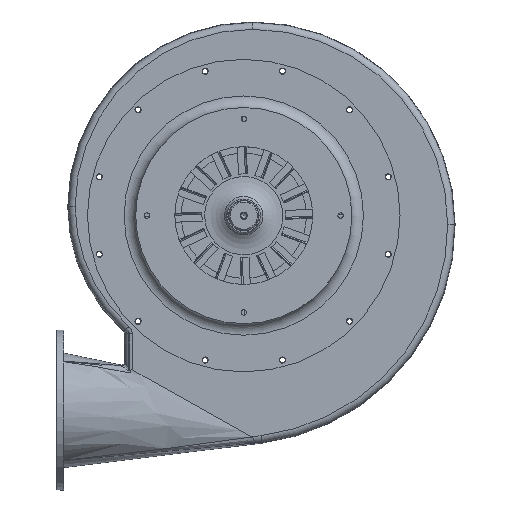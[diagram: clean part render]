
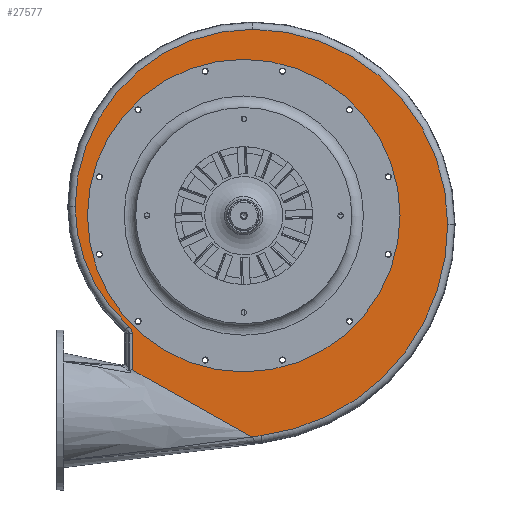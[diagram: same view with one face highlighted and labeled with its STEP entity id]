
A CAD part, top view. The second image highlights one B-rep face of the part: STEP entity #27577.
In plain terms, the highlighted planar face has unit normal (0, 0, 1).
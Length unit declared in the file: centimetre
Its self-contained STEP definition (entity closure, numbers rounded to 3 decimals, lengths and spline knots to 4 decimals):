
#221=FACE_BOUND('',#8738,.T.);
#222=FACE_BOUND('',#8739,.T.);
#223=FACE_BOUND('',#8740,.T.);
#224=FACE_BOUND('',#8741,.T.);
#225=FACE_BOUND('',#8742,.T.);
#226=FACE_BOUND('',#8743,.T.);
#227=FACE_BOUND('',#8744,.T.);
#228=FACE_BOUND('',#8745,.T.);
#229=FACE_BOUND('',#8746,.T.);
#230=FACE_BOUND('',#8747,.T.);
#231=FACE_BOUND('',#8748,.T.);
#232=FACE_BOUND('',#8749,.T.);
#233=FACE_BOUND('',#8750,.T.);
#1461=LINE('',#40298,#3857);
#1464=LINE('',#40424,#3860);
#1465=LINE('',#40426,#3861);
#1466=LINE('',#40427,#3862);
#1467=LINE('',#40453,#3863);
#3857=VECTOR('',#31713,5.3127);
#3860=VECTOR('',#31718,1.862);
#3861=VECTOR('',#31719,16.555);
#3862=VECTOR('',#31720,1.6597);
#3863=VECTOR('',#31755,1.4801);
#6239=PLANE('',#29156);
#7204=FACE_OUTER_BOUND('',#8737,.T.);
#8737=EDGE_LOOP('',(#18919,#18920,#18921,#18922,#18923,#18924,#18925,#18926,
#18927,#18928));
#8738=EDGE_LOOP('',(#18929));
#8739=EDGE_LOOP('',(#18930));
#8740=EDGE_LOOP('',(#18931));
#8741=EDGE_LOOP('',(#18932));
#8742=EDGE_LOOP('',(#18933));
#8743=EDGE_LOOP('',(#18934));
#8744=EDGE_LOOP('',(#18935));
#8745=EDGE_LOOP('',(#18936));
#8746=EDGE_LOOP('',(#18937));
#8747=EDGE_LOOP('',(#18938));
#8748=EDGE_LOOP('',(#18939));
#8749=EDGE_LOOP('',(#18940));
#8750=EDGE_LOOP('',(#18941));
#11389=CIRCLE('',#29056,0.4);
#11391=CIRCLE('',#29059,0.4);
#11393=CIRCLE('',#29062,0.4);
#11395=CIRCLE('',#29065,0.4);
#11397=CIRCLE('',#29068,0.4);
#11399=CIRCLE('',#29071,0.4);
#11401=CIRCLE('',#29074,0.4);
#11403=CIRCLE('',#29077,0.4);
#11405=CIRCLE('',#29080,0.4);
#11407=CIRCLE('',#29083,0.4);
#11409=CIRCLE('',#29086,0.4);
#11411=CIRCLE('',#29089,0.4);
#11413=CIRCLE('',#29092,21.);
#11441=CIRCLE('',#29142,23.5073);
#11444=CIRCLE('',#29146,26.1073);
#11447=CIRCLE('',#29150,28.7073);
#11450=CIRCLE('',#29154,31.3073);
#12431=B_SPLINE_CURVE_WITH_KNOTS('',3,(#40065,#40066,#40067,#40068,#40069),
 .UNSPECIFIED.,.F.,.F.,(4,1,4),(0.,0.5428,1.2665),
 .UNSPECIFIED.);
#12583=VERTEX_POINT('',#39454);
#12585=VERTEX_POINT('',#39459);
#12587=VERTEX_POINT('',#39464);
#12589=VERTEX_POINT('',#39469);
#12591=VERTEX_POINT('',#39474);
#12593=VERTEX_POINT('',#39479);
#12595=VERTEX_POINT('',#39484);
#12597=VERTEX_POINT('',#39489);
#12599=VERTEX_POINT('',#39494);
#12601=VERTEX_POINT('',#39499);
#12603=VERTEX_POINT('',#39504);
#12605=VERTEX_POINT('',#39509);
#12607=VERTEX_POINT('',#39514);
#12646=VERTEX_POINT('',#40062);
#12647=VERTEX_POINT('',#40064);
#12658=VERTEX_POINT('',#40269);
#12660=VERTEX_POINT('',#40415);
#12661=VERTEX_POINT('',#40423);
#12662=VERTEX_POINT('',#40425);
#12664=VERTEX_POINT('',#40430);
#12666=VERTEX_POINT('',#40436);
#12668=VERTEX_POINT('',#40442);
#12670=VERTEX_POINT('',#40448);
#15107=EDGE_CURVE('',#12583,#12583,#11389,.T.);
#15109=EDGE_CURVE('',#12585,#12585,#11391,.T.);
#15111=EDGE_CURVE('',#12587,#12587,#11393,.T.);
#15113=EDGE_CURVE('',#12589,#12589,#11395,.T.);
#15115=EDGE_CURVE('',#12591,#12591,#11397,.T.);
#15117=EDGE_CURVE('',#12593,#12593,#11399,.T.);
#15119=EDGE_CURVE('',#12595,#12595,#11401,.T.);
#15121=EDGE_CURVE('',#12597,#12597,#11403,.T.);
#15123=EDGE_CURVE('',#12599,#12599,#11405,.T.);
#15125=EDGE_CURVE('',#12601,#12601,#11407,.T.);
#15127=EDGE_CURVE('',#12603,#12603,#11409,.T.);
#15129=EDGE_CURVE('',#12605,#12605,#11411,.T.);
#15131=EDGE_CURVE('',#12607,#12607,#11413,.T.);
#15193=EDGE_CURVE('',#12647,#12646,#12431,.T.);
#15210=EDGE_CURVE('',#12658,#12646,#1461,.T.);
#15217=EDGE_CURVE('',#12660,#12661,#1464,.T.);
#15218=EDGE_CURVE('',#12661,#12662,#1465,.T.);
#15219=EDGE_CURVE('',#12662,#12658,#1466,.T.);
#15222=EDGE_CURVE('',#12664,#12647,#11441,.T.);
#15225=EDGE_CURVE('',#12666,#12664,#11444,.T.);
#15228=EDGE_CURVE('',#12668,#12666,#11447,.T.);
#15231=EDGE_CURVE('',#12670,#12668,#11450,.T.);
#15232=EDGE_CURVE('',#12660,#12670,#1467,.T.);
#18919=ORIENTED_EDGE('',*,*,#15210,.F.);
#18920=ORIENTED_EDGE('',*,*,#15219,.F.);
#18921=ORIENTED_EDGE('',*,*,#15218,.F.);
#18922=ORIENTED_EDGE('',*,*,#15217,.F.);
#18923=ORIENTED_EDGE('',*,*,#15232,.T.);
#18924=ORIENTED_EDGE('',*,*,#15231,.T.);
#18925=ORIENTED_EDGE('',*,*,#15228,.T.);
#18926=ORIENTED_EDGE('',*,*,#15225,.T.);
#18927=ORIENTED_EDGE('',*,*,#15222,.T.);
#18928=ORIENTED_EDGE('',*,*,#15193,.T.);
#18929=ORIENTED_EDGE('',*,*,#15107,.F.);
#18930=ORIENTED_EDGE('',*,*,#15109,.F.);
#18931=ORIENTED_EDGE('',*,*,#15111,.F.);
#18932=ORIENTED_EDGE('',*,*,#15113,.F.);
#18933=ORIENTED_EDGE('',*,*,#15115,.F.);
#18934=ORIENTED_EDGE('',*,*,#15117,.F.);
#18935=ORIENTED_EDGE('',*,*,#15119,.F.);
#18936=ORIENTED_EDGE('',*,*,#15121,.F.);
#18937=ORIENTED_EDGE('',*,*,#15123,.F.);
#18938=ORIENTED_EDGE('',*,*,#15125,.F.);
#18939=ORIENTED_EDGE('',*,*,#15127,.F.);
#18940=ORIENTED_EDGE('',*,*,#15129,.F.);
#18941=ORIENTED_EDGE('',*,*,#15131,.F.);
#27577=ADVANCED_FACE('',(#7204,#221,#222,#223,#224,#225,#226,#227,#228,
#229,#230,#231,#232,#233),#6239,.T.);
#29056=AXIS2_PLACEMENT_3D('',#39455,#31533,#31534);
#29059=AXIS2_PLACEMENT_3D('',#39460,#31539,#31540);
#29062=AXIS2_PLACEMENT_3D('',#39465,#31545,#31546);
#29065=AXIS2_PLACEMENT_3D('',#39470,#31551,#31552);
#29068=AXIS2_PLACEMENT_3D('',#39475,#31557,#31558);
#29071=AXIS2_PLACEMENT_3D('',#39480,#31563,#31564);
#29074=AXIS2_PLACEMENT_3D('',#39485,#31569,#31570);
#29077=AXIS2_PLACEMENT_3D('',#39490,#31575,#31576);
#29080=AXIS2_PLACEMENT_3D('',#39495,#31581,#31582);
#29083=AXIS2_PLACEMENT_3D('',#39500,#31587,#31588);
#29086=AXIS2_PLACEMENT_3D('',#39505,#31593,#31594);
#29089=AXIS2_PLACEMENT_3D('',#39510,#31599,#31600);
#29092=AXIS2_PLACEMENT_3D('',#39515,#31605,#31606);
#29142=AXIS2_PLACEMENT_3D('',#40433,#31727,#31728);
#29146=AXIS2_PLACEMENT_3D('',#40439,#31735,#31736);
#29150=AXIS2_PLACEMENT_3D('',#40445,#31743,#31744);
#29154=AXIS2_PLACEMENT_3D('',#40451,#31751,#31752);
#29156=AXIS2_PLACEMENT_3D('',#40455,#31757,#31758);
#31533=DIRECTION('center_axis',(0.,0.,1.));
#31534=DIRECTION('ref_axis',(1.,0.,0.));
#31539=DIRECTION('center_axis',(0.,0.,1.));
#31540=DIRECTION('ref_axis',(1.,0.,0.));
#31545=DIRECTION('center_axis',(0.,0.,1.));
#31546=DIRECTION('ref_axis',(1.,0.,0.));
#31551=DIRECTION('center_axis',(0.,0.,1.));
#31552=DIRECTION('ref_axis',(1.,0.,0.));
#31557=DIRECTION('center_axis',(0.,0.,1.));
#31558=DIRECTION('ref_axis',(1.,0.,0.));
#31563=DIRECTION('center_axis',(0.,0.,1.));
#31564=DIRECTION('ref_axis',(1.,0.,0.));
#31569=DIRECTION('center_axis',(0.,0.,1.));
#31570=DIRECTION('ref_axis',(1.,0.,0.));
#31575=DIRECTION('center_axis',(0.,0.,1.));
#31576=DIRECTION('ref_axis',(1.,0.,0.));
#31581=DIRECTION('center_axis',(0.,0.,1.));
#31582=DIRECTION('ref_axis',(1.,0.,0.));
#31587=DIRECTION('center_axis',(0.,0.,1.));
#31588=DIRECTION('ref_axis',(1.,0.,0.));
#31593=DIRECTION('center_axis',(0.,0.,1.));
#31594=DIRECTION('ref_axis',(1.,0.,0.));
#31599=DIRECTION('center_axis',(0.,0.,1.));
#31600=DIRECTION('ref_axis',(1.,0.,0.));
#31605=DIRECTION('center_axis',(0.,0.,1.));
#31606=DIRECTION('ref_axis',(1.,0.,0.));
#31713=DIRECTION('',(0.,1.,0.));
#31718=DIRECTION('',(-0.872,0.49,0.));
#31719=DIRECTION('',(-0.872,0.49,0.));
#31720=DIRECTION('',(-0.872,0.49,0.));
#31727=DIRECTION('center_axis',(0.,0.,1.));
#31728=DIRECTION('ref_axis',(-0.912,-0.41,0.));
#31735=DIRECTION('center_axis',(0.,0.,1.));
#31736=DIRECTION('ref_axis',(-0.707,0.707,0.));
#31743=DIRECTION('center_axis',(0.,0.,1.));
#31744=DIRECTION('ref_axis',(0.707,0.707,0.));
#31751=DIRECTION('center_axis',(0.,0.,1.));
#31752=DIRECTION('ref_axis',(0.749,-0.662,0.));
#31755=DIRECTION('',(0.992,0.123,0.));
#31757=DIRECTION('center_axis',(0.,0.,1.));
#31758=DIRECTION('ref_axis',(1.,0.,0.));
#39454=CARTESIAN_POINT('',(5.294,21.2504,6.3));
#39455=CARTESIAN_POINT('Origin',(5.694,21.2504,6.3));
#39459=CARTESIAN_POINT('',(20.8504,5.694,6.3));
#39460=CARTESIAN_POINT('Origin',(21.2504,5.694,6.3));
#39464=CARTESIAN_POINT('',(15.1563,-15.5563,6.3));
#39465=CARTESIAN_POINT('Origin',(15.5563,-15.5563,6.3));
#39469=CARTESIAN_POINT('',(-6.094,-21.2504,6.3));
#39470=CARTESIAN_POINT('Origin',(-5.694,-21.2504,6.3));
#39474=CARTESIAN_POINT('',(-21.6504,-5.694,6.3));
#39475=CARTESIAN_POINT('Origin',(-21.2504,-5.694,6.3));
#39479=CARTESIAN_POINT('',(-15.9563,15.5563,6.3));
#39480=CARTESIAN_POINT('Origin',(-15.5563,15.5563,6.3));
#39484=CARTESIAN_POINT('',(-6.094,21.2504,6.3));
#39485=CARTESIAN_POINT('Origin',(-5.694,21.2504,6.3));
#39489=CARTESIAN_POINT('',(-21.6504,5.694,6.3));
#39490=CARTESIAN_POINT('Origin',(-21.2504,5.694,6.3));
#39494=CARTESIAN_POINT('',(-15.9563,-15.5563,6.3));
#39495=CARTESIAN_POINT('Origin',(-15.5563,-15.5563,6.3));
#39499=CARTESIAN_POINT('',(5.294,-21.2504,6.3));
#39500=CARTESIAN_POINT('Origin',(5.694,-21.2504,6.3));
#39504=CARTESIAN_POINT('',(20.8504,-5.694,6.3));
#39505=CARTESIAN_POINT('Origin',(21.2504,-5.694,6.3));
#39509=CARTESIAN_POINT('',(15.1563,15.5563,6.3));
#39510=CARTESIAN_POINT('Origin',(15.5563,15.5563,6.3));
#39514=CARTESIAN_POINT('',(-21.,0.,6.3));
#39515=CARTESIAN_POINT('Origin',(0.,0.,6.3));
#40062=CARTESIAN_POINT('',(-16.4073,-17.3965,6.3));
#40064=CARTESIAN_POINT('',(-16.9111,-16.2752,6.3));
#40065=CARTESIAN_POINT('Ctrl Pts',(-16.9111,-16.2752,
6.3));
#40066=CARTESIAN_POINT('Ctrl Pts',(-16.7758,-16.3954,
6.3));
#40067=CARTESIAN_POINT('Ctrl Pts',(-16.5113,-16.7334,
6.3));
#40068=CARTESIAN_POINT('Ctrl Pts',(-16.4073,-17.1553,
6.3));
#40069=CARTESIAN_POINT('Ctrl Pts',(-16.4073,-17.3965,
6.3));
#40269=CARTESIAN_POINT('',(-16.4073,-22.7092,6.3));
#40298=CARTESIAN_POINT('',(-16.4073,-12.8556,6.3));
#40415=CARTESIAN_POINT('',(1.0916,-32.5509,6.3));
#40423=CARTESIAN_POINT('',(-0.5314,-31.6381,6.3));
#40424=CARTESIAN_POINT('',(-4.9164,-29.1719,6.3));
#40425=CARTESIAN_POINT('',(-14.9608,-23.5228,6.3));
#40426=CARTESIAN_POINT('',(-4.9164,-29.1719,6.3));
#40427=CARTESIAN_POINT('',(-4.9164,-29.1719,6.3));
#40430=CARTESIAN_POINT('',(-24.8073,1.3,6.3));
#40433=CARTESIAN_POINT('Origin',(-1.3,1.3,6.3));
#40436=CARTESIAN_POINT('',(1.3,27.4073,6.3));
#40439=CARTESIAN_POINT('Origin',(1.3,1.3,6.3));
#40442=CARTESIAN_POINT('',(30.0073,-1.3,6.3));
#40445=CARTESIAN_POINT('Origin',(1.3,-1.3,6.3));
#40448=CARTESIAN_POINT('',(2.5604,-32.3684,6.3));
#40451=CARTESIAN_POINT('Origin',(-1.3,-1.3,6.3));
#40453=CARTESIAN_POINT('',(-13.9665,-34.422,6.3));
#40455=CARTESIAN_POINT('Origin',(-3.3084,-8.4985,6.3));
